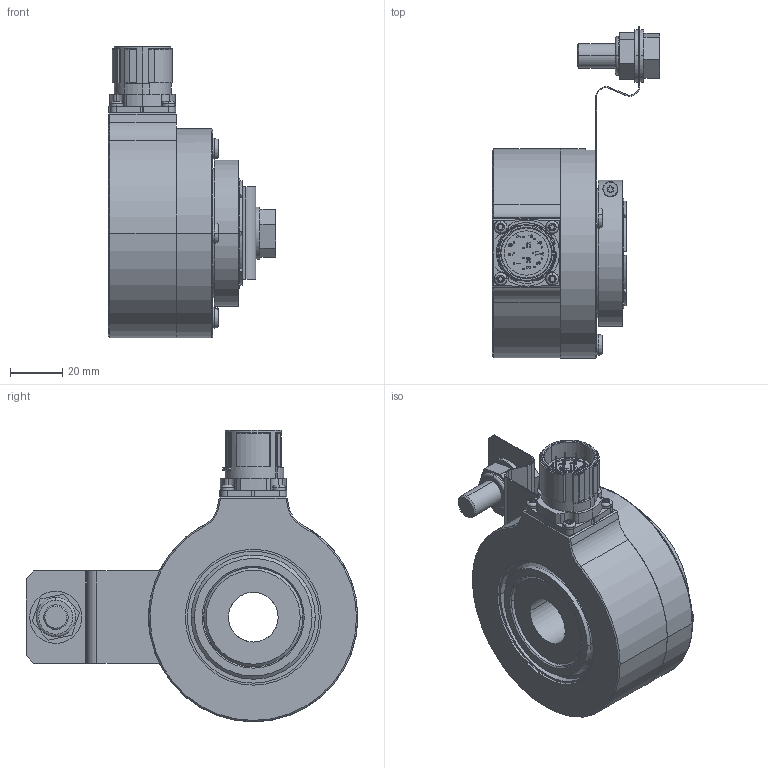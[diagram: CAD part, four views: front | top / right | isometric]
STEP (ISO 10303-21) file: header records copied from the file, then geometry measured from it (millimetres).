
FILE_DESCRIPTION (( 'STEP AP203' ), '1' );
FILE_NAME ('K80I.OXX.XXXXX.XH2485A.6XRC4.step', '2025-12-09T10:44:36', ( '' ), ( '' ), 'SwSTEP 2.0', 'SolidWorks 2021', '' );
FILE_SCHEMA (( 'CONFIG_CONTROL_DESIGN' ));
Length unit declared in the file: millimetre
Products named in the file (1): K80I.OXX.XXXXX.XH2485A.6XRC4
Bounding box: 63.95 x 127.03 x 111.67 mm (x, y, z)
Volume: 224614.9 mm3; surface area: 82123.1 mm2
Topology: 8 solids, 10 shells, 936 faces, 2443 edges, 1570 vertices
Faces by surface type: cylinder 398, plane 335, bspline 102, cone 45, sphere 34, torus 22
Entity records: 35814 total; most frequent: CARTESIAN_POINT 12868, ORIENTED_EDGE 4810, DIRECTION 4756, EDGE_CURVE 2405, AXIS2_PLACEMENT_3D 1799, VERTEX_POINT 1567, LINE 1158, VECTOR 1158
